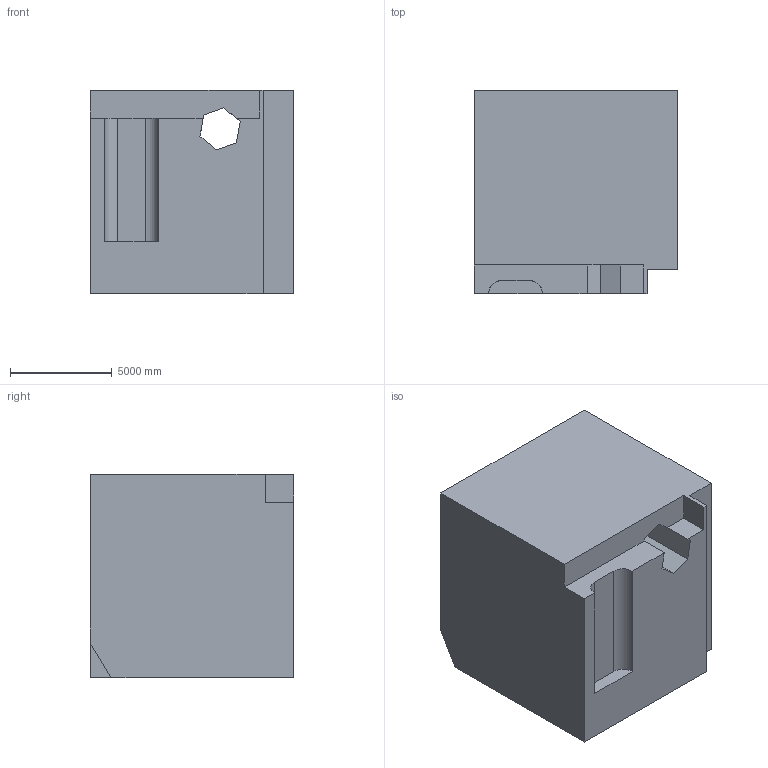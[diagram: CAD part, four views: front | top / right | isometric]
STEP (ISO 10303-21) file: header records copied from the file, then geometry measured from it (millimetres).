
FILE_DESCRIPTION (( 'STEP AP203' ), '1' );
FILE_NAME ('770.STEP', '2022-07-29T13:05:24', ( 'user' ), ( '' ), 'SwSTEP 2.0', 'SolidWorks 2021', '' );
FILE_SCHEMA (( 'CONFIG_CONTROL_DESIGN' ));
Length unit declared in the file: centimetre
Products named in the file (1): 770
Bounding box: 10000 x 10000 x 10000 mm (x, y, z)
Volume: 916583964744.7 mm3; surface area: 678046367.5 mm2
Topology: 1 solids, 1 shells, 42 faces, 114 edges, 76 vertices
Faces by surface type: plane 40, cylinder 2
Entity records: 1383 total; most frequent: CARTESIAN_POINT 233, ORIENTED_EDGE 228, DIRECTION 204, EDGE_CURVE 114, LINE 110, VECTOR 110, VERTEX_POINT 76, AXIS2_PLACEMENT_3D 47
